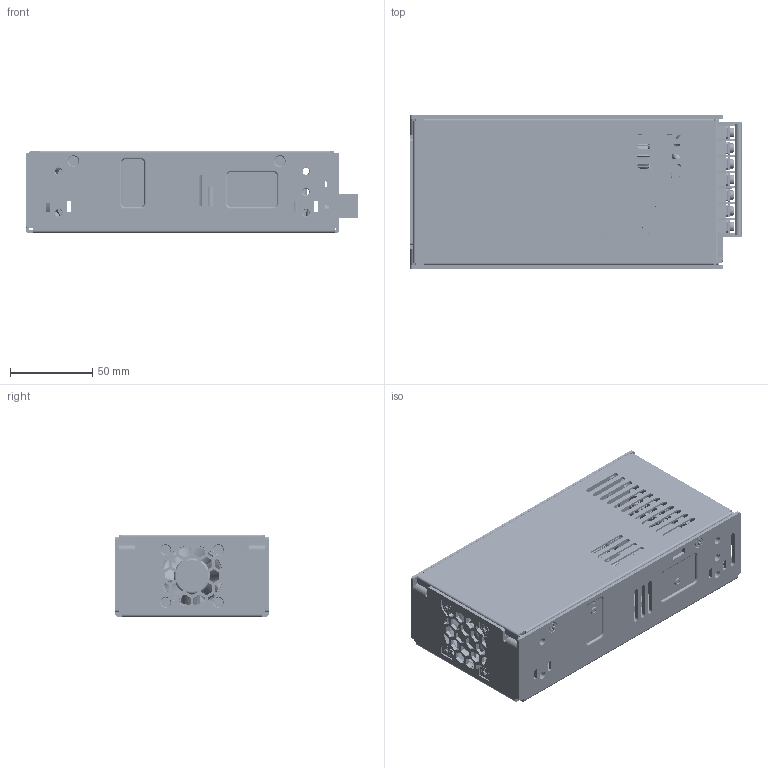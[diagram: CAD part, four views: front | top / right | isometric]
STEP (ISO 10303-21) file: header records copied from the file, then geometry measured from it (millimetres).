
FILE_DESCRIPTION((''),'2;1');
FILE_NAME('CHASSIS_ASM','2014-08-22T',('LEON.YEH'),(''),'PRO/ENGINEER BY PARAMETRIC TECHNOLOGY CORPORATION, 2010280','PRO/ENGINEER BY PARAMETRIC TECHNOLOGY CORPORATION, 2010280','');
FILE_SCHEMA(('CONFIG_CONTROL_DESIGN'));
Length unit declared in the file: millimetre
Products named in the file (57): CHASSIS_AF0; CHASSIS-STANDOFF; CHASSIS-STANDOFF-1; COVER-00; 3105318101-L5; PRT0011; PRT0012; PRT0013; PRT0014; PRT0016; PRT0017; PRT0018; T44-ES1107A302-20130510_ASM; 1; 2; 3; 4; 5; 6; 7; 8; 9; ASSEM1_ASM; T14-EO3107A301-20130510_ASM; HSK1; L_PIN_LEFT; PIN1; BD1; HSK1_ASM_ASM; VR_LEG__ASM; FAN_4CM_20; CN102; FL2; FL1; FL3; IC101; CY2; PWB_FINAL; F1; C5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
Assembly tree (81 placements, depth 4):
  CHASSIS_ASM
    CHASSIS_AF0
    CHASSIS-STANDOFF
    CHASSIS-STANDOFF-1  x3
    COVER-00
    3105318101-L5  x4
    T44-ES1107A302-20130510_ASM
      PRT0011
      PRT0012
      PRT0013
      PRT0014
      PRT0016
      PRT0017
      PRT0018
    T14-EO3107A301-20130510_ASM
      ASSEM1_ASM
        1
        2
        3
        4
        5
        6
        7
        8
        9
    HSK1_ASM_ASM
      HSK1
      L_PIN_LEFT
      PIN1
      BD1
    VR_LEG__ASM
    FAN_4CM_20
    CN102
    FL2
    FL1
    FL3
    IC101
    CY2  x5
    PWB_FINAL
    F1
    C5  x2
    D101  x3
    BRACKET  x2
    Q1  x2
    BLACK_SINGLE
    T1
    LED_HOLDER
    L2
    NTC1_12_1
    PRT0019  x3
    3105320100-L8  x4
    3105319200-L10
    3105319300-L12  x2
    3105325300-L8  x4
    DIDE_TUBE_TO220  x3
    VR132
    INSULATOR_320_
Bounding box: 201.3 x 93 x 50 mm (x, y, z)
Volume: 253766.2 mm3; surface area: 275670 mm2
Topology: 166 solids, 168 shells, 5150 faces, 13166 edges, 8255 vertices
Faces by surface type: plane 2403, cylinder 1677, torus 574, bspline 240, cone 172, extrusion 56, revolution 20, sphere 8
Entity records: 153155 total; most frequent: CARTESIAN_POINT 46800, ORIENTED_EDGE 22010, DIRECTION 21974, EDGE_CURVE 11005, AXIS2_PLACEMENT_3D 7711, VERTEX_POINT 6897, VECTOR 6548, LINE 6492
